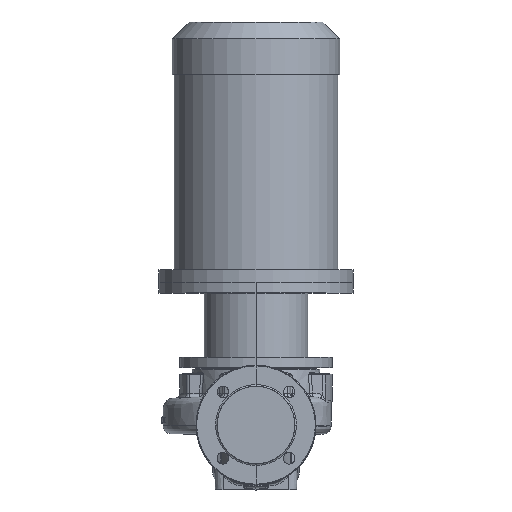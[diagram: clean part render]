
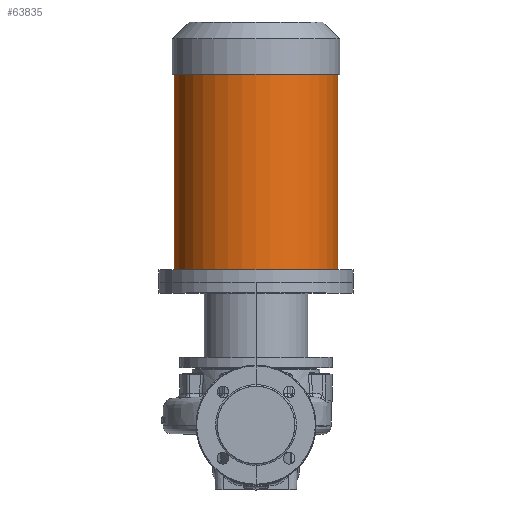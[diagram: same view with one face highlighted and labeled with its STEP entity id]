
A CAD part, top view. The second image highlights one B-rep face of the part: STEP entity #63835.
In plain terms, the highlighted cylindrical face has radius 126.5 mm (diameter 253 mm), a partial arc.
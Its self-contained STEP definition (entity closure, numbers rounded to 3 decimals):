
#13865 = CARTESIAN_POINT ( 'NONE',  ( -126.5, 240.3, 0. ) ) ;
#14658 = DIRECTION ( 'NONE',  ( 0., -1., 0. ) ) ;
#15473 = DIRECTION ( 'NONE',  ( 0., -1., 0. ) ) ;
#16383 = AXIS2_PLACEMENT_3D ( 'NONE', #70476, #15473, #65168 ) ;
#18775 = VERTEX_POINT ( 'NONE', #32019 ) ;
#19188 = CARTESIAN_POINT ( 'NONE',  ( 126.5, 542.3, 0. ) ) ;
#20344 = EDGE_CURVE ( 'NONE', #18775, #50759, #66414, .T. ) ;
#23276 = VERTEX_POINT ( 'NONE', #19188 ) ;
#24050 = ORIENTED_EDGE ( 'NONE', *, *, #20344, .T. ) ;
#24234 = AXIS2_PLACEMENT_3D ( 'NONE', #64665, #26216, #64425 ) ;
#24397 = DIRECTION ( 'NONE',  ( 0., -1., 0. ) ) ;
#24835 = VECTOR ( 'NONE', #55290, 1000. ) ;
#26144 = ORIENTED_EDGE ( 'NONE', *, *, #67165, .F. ) ;
#26216 = DIRECTION ( 'NONE',  ( 0., -1., 0. ) ) ;
#27329 = CIRCLE ( 'NONE', #41431, 126.5 ) ;
#30460 = CARTESIAN_POINT ( 'NONE',  ( 0., 542.3, 0. ) ) ;
#31571 = EDGE_LOOP ( 'NONE', ( #26144, #48317, #24050, #54428 ) ) ;
#31884 = EDGE_CURVE ( 'NONE', #23276, #18775, #27329, .T. ) ;
#32019 = CARTESIAN_POINT ( 'NONE',  ( -126.5, 542.3, 0. ) ) ;
#35361 = FACE_OUTER_BOUND ( 'NONE', #31571, .T. ) ;
#37994 = CYLINDRICAL_SURFACE ( 'NONE', #16383, 126.5 ) ;
#38251 = VECTOR ( 'NONE', #24397, 1000. ) ;
#38842 = CARTESIAN_POINT ( 'NONE',  ( 126.5, 220.3, 0. ) ) ;
#41431 = AXIS2_PLACEMENT_3D ( 'NONE', #30460, #14658, #42120 ) ;
#42120 = DIRECTION ( 'NONE',  ( -1., 0., 0. ) ) ;
#44527 = CARTESIAN_POINT ( 'NONE',  ( 126.5, 240.3, 0. ) ) ;
#46591 = CARTESIAN_POINT ( 'NONE',  ( -126.5, 220.3, 0. ) ) ;
#46731 = VERTEX_POINT ( 'NONE', #44527 ) ;
#47929 = LINE ( 'NONE', #38842, #24835 ) ;
#48317 = ORIENTED_EDGE ( 'NONE', *, *, #31884, .T. ) ;
#50759 = VERTEX_POINT ( 'NONE', #13865 ) ;
#54428 = ORIENTED_EDGE ( 'NONE', *, *, #62194, .F. ) ;
#55290 = DIRECTION ( 'NONE',  ( 0., -1., 0. ) ) ;
#59150 = CIRCLE ( 'NONE', #24234, 126.5 ) ;
#62194 = EDGE_CURVE ( 'NONE', #46731, #50759, #59150, .T. ) ;
#63835 = ADVANCED_FACE ( 'NONE', ( #35361 ), #37994, .T. ) ;
#64425 = DIRECTION ( 'NONE',  ( -1., 0., 0. ) ) ;
#64665 = CARTESIAN_POINT ( 'NONE',  ( 0., 240.3, 0. ) ) ;
#65168 = DIRECTION ( 'NONE',  ( -1., 0., 0. ) ) ;
#66414 = LINE ( 'NONE', #46591, #38251 ) ;
#67165 = EDGE_CURVE ( 'NONE', #23276, #46731, #47929, .T. ) ;
#70476 = CARTESIAN_POINT ( 'NONE',  ( 0., 220.3, 0. ) ) ;
